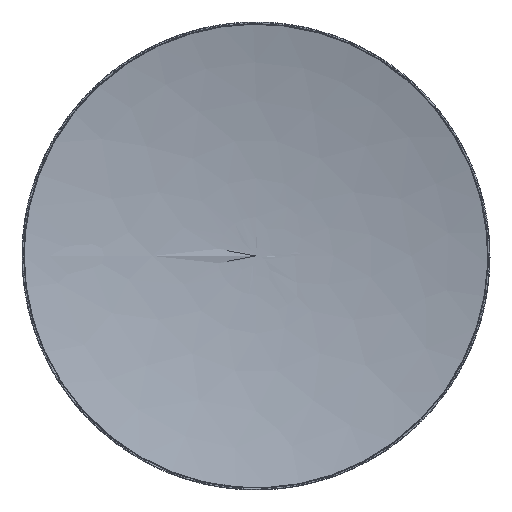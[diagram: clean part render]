
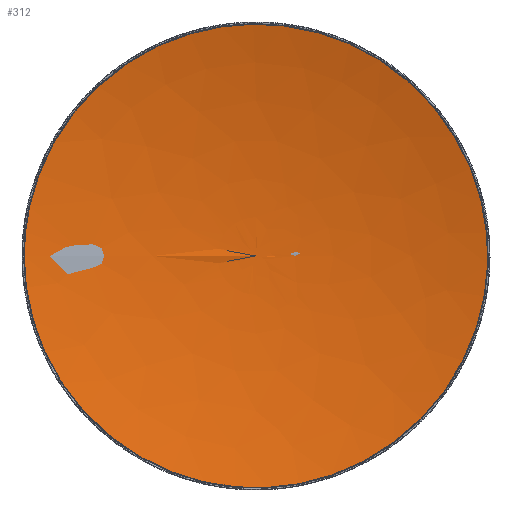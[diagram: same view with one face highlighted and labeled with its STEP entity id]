
A CAD part, front view. The second image highlights one B-rep face of the part: STEP entity #312.
In plain terms, the highlighted free-form (B-spline) face has degree [3, 2] with [4, 9] control points.
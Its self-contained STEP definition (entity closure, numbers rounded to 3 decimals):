
#312=ADVANCED_FACE('',(#525),#3495,.T.);
#525=FACE_OUTER_BOUND('',#783,.T.);
#783=EDGE_LOOP('',(#1831,#1832,#1833));
#1831=ORIENTED_EDGE('',*,*,#2388,.T.);
#1832=ORIENTED_EDGE('',*,*,#2385,.F.);
#1833=ORIENTED_EDGE('',*,*,#2385,.T.);
#2385=EDGE_CURVE('',#3284,#3287,#2928,.T.);
#2388=EDGE_CURVE('',#3287,#3287,#2931,.T.);
#2928=(
BOUNDED_CURVE()
B_SPLINE_CURVE(3,(#21382,#21383,#21384,#21385),.UNSPECIFIED.,.F.,.F.)
B_SPLINE_CURVE_WITH_KNOTS((4,4),(1.,248.549),
 .UNSPECIFIED.)
CURVE()
GEOMETRIC_REPRESENTATION_ITEM()
RATIONAL_B_SPLINE_CURVE((1.,0.994,0.994,1.))
REPRESENTATION_ITEM('')
);
#2931=(
BOUNDED_CURVE()
B_SPLINE_CURVE(2,(#21409,#21410,#21411,#21412,#21413,#21414,#21415,#21416,
#21417),.UNSPECIFIED.,.T.,.F.)
B_SPLINE_CURVE_WITH_KNOTS((3,2,2,2,3),(0.,695.29,1390.58,
2085.869,2781.159),.UNSPECIFIED.)
CURVE()
GEOMETRIC_REPRESENTATION_ITEM()
RATIONAL_B_SPLINE_CURVE((1.,0.707,1.,0.707,1.,0.707,
1.,0.707,1.))
REPRESENTATION_ITEM('')
);
#3284=VERTEX_POINT('',#21378);
#3287=VERTEX_POINT('',#21381);
#3495=(
BOUNDED_SURFACE()
B_SPLINE_SURFACE(3,2,((#21306,#21307,#21308,#21309,#21310,#21311,#21312,
#21313,#21314),(#21315,#21316,#21317,#21318,#21319,#21320,#21321,#21322,
#21323),(#21324,#21325,#21326,#21327,#21328,#21329,#21330,#21331,#21332),
(#21333,#21334,#21335,#21336,#21337,#21338,#21339,#21340,#21341)),
 .UNSPECIFIED.,.F.,.F.,.F.)
B_SPLINE_SURFACE_WITH_KNOTS((4,4),(3,2,2,2,3),(1.,248.549),
(0.,695.29,1390.58,2085.869,2781.159),
 .UNSPECIFIED.)
GEOMETRIC_REPRESENTATION_ITEM()
RATIONAL_B_SPLINE_SURFACE(((1.,0.707,1.,0.707,1.,
0.707,1.,0.707,1.),(0.994,0.703,
0.994,0.703,0.994,0.703,
0.994,0.703,0.994),(0.994,
0.703,0.994,0.703,0.994,
0.703,0.994,0.703,0.994),
(1.,0.707,1.,0.707,1.,0.707,1.,0.707,
1.)))
REPRESENTATION_ITEM('')
SURFACE()
);
#21306=CARTESIAN_POINT('',(0.,-691.509,0.));
#21307=CARTESIAN_POINT('',(0.,-691.509,0.));
#21308=CARTESIAN_POINT('',(0.,-691.509,0.));
#21309=CARTESIAN_POINT('',(0.,-691.509,0.));
#21310=CARTESIAN_POINT('',(0.,-691.509,0.));
#21311=CARTESIAN_POINT('',(0.,-691.509,0.));
#21312=CARTESIAN_POINT('',(0.,-691.509,0.));
#21313=CARTESIAN_POINT('',(0.,-691.509,0.));
#21314=CARTESIAN_POINT('',(0.,-691.509,0.));
#21315=CARTESIAN_POINT('',(-149.232,-691.509,0.));
#21316=CARTESIAN_POINT('',(-149.232,-691.509,-149.232));
#21317=CARTESIAN_POINT('',(0.,-691.509,-149.232));
#21318=CARTESIAN_POINT('',(149.232,-691.509,-149.232));
#21319=CARTESIAN_POINT('',(149.232,-691.509,0.));
#21320=CARTESIAN_POINT('',(149.232,-691.509,149.232));
#21321=CARTESIAN_POINT('',(0.,-691.509,149.232));
#21322=CARTESIAN_POINT('',(-149.232,-691.509,149.232));
#21323=CARTESIAN_POINT('',(-149.232,-691.509,0.));
#21324=CARTESIAN_POINT('',(-298.319,-709.621,0.));
#21325=CARTESIAN_POINT('',(-298.319,-709.621,-298.319));
#21326=CARTESIAN_POINT('',(0.,-709.621,-298.319));
#21327=CARTESIAN_POINT('',(298.319,-709.621,-298.319));
#21328=CARTESIAN_POINT('',(298.319,-709.621,0.));
#21329=CARTESIAN_POINT('',(298.319,-709.621,298.319));
#21330=CARTESIAN_POINT('',(0.,-709.621,298.319));
#21331=CARTESIAN_POINT('',(-298.319,-709.621,298.319));
#21332=CARTESIAN_POINT('',(-298.319,-709.621,0.));
#21333=CARTESIAN_POINT('',(-444.5,-745.509,0.));
#21334=CARTESIAN_POINT('',(-444.5,-745.509,-444.5));
#21335=CARTESIAN_POINT('',(0.,-745.509,-444.5));
#21336=CARTESIAN_POINT('',(444.5,-745.509,-444.5));
#21337=CARTESIAN_POINT('',(444.5,-745.509,0.));
#21338=CARTESIAN_POINT('',(444.5,-745.509,444.5));
#21339=CARTESIAN_POINT('',(0.,-745.509,444.5));
#21340=CARTESIAN_POINT('',(-444.5,-745.509,444.5));
#21341=CARTESIAN_POINT('',(-444.5,-745.509,0.));
#21378=CARTESIAN_POINT('',(0.,-691.509,0.));
#21381=CARTESIAN_POINT('',(-444.5,-745.509,0.));
#21382=CARTESIAN_POINT('',(0.,-691.509,0.));
#21383=CARTESIAN_POINT('',(-149.232,-691.509,0.));
#21384=CARTESIAN_POINT('',(-298.319,-709.621,0.));
#21385=CARTESIAN_POINT('',(-444.5,-745.509,0.));
#21409=CARTESIAN_POINT('',(-444.5,-745.509,0.));
#21410=CARTESIAN_POINT('',(-444.5,-745.509,-444.5));
#21411=CARTESIAN_POINT('',(0.,-745.509,-444.5));
#21412=CARTESIAN_POINT('',(444.5,-745.509,-444.5));
#21413=CARTESIAN_POINT('',(444.5,-745.509,0.));
#21414=CARTESIAN_POINT('',(444.5,-745.509,444.5));
#21415=CARTESIAN_POINT('',(0.,-745.509,444.5));
#21416=CARTESIAN_POINT('',(-444.5,-745.509,444.5));
#21417=CARTESIAN_POINT('',(-444.5,-745.509,0.));
